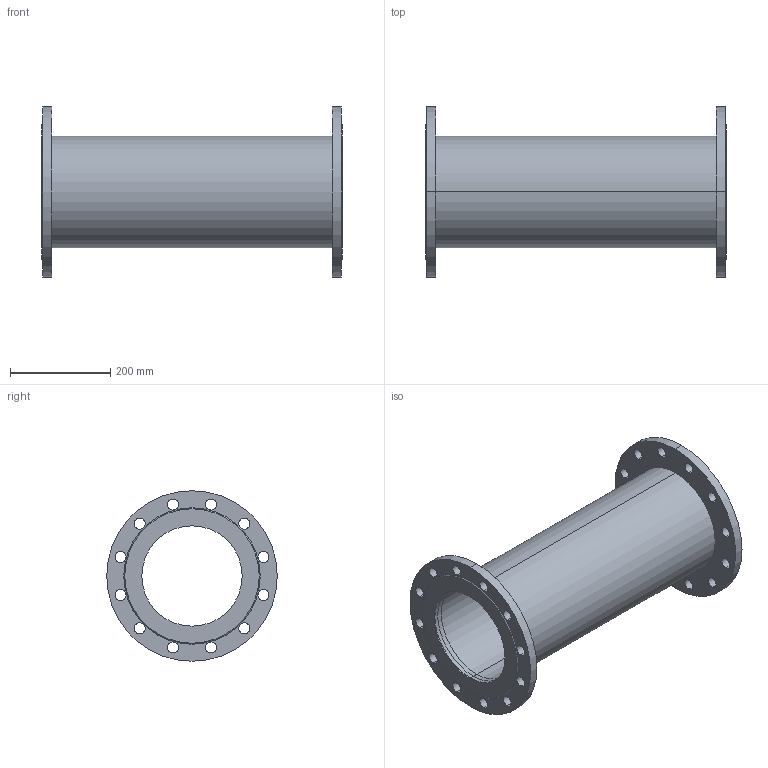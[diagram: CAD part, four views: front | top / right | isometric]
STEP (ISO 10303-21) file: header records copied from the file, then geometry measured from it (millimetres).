
FILE_DESCRIPTION(('STEP AP214'),'1');
FILE_NAME('S:/EK/USER/CAT6/3DHomepage_27-04-2012/VDI-Rohrsysteme_und_Stahlrohre/8500/8500_PN16_DN200_L600.STP','2013-01-21T14:42:00',(' '),(' '),'Spatial InterOp 3D',' ',' ');
FILE_SCHEMA(('automotive_design'));
Length unit declared in the file: millimetre
Products named in the file (5): 3D-Objekt
Bounding box: 600 x 340 x 340 mm (x, y, z)
Volume: 6305834.1 mm3; surface area: 1204390.3 mm2
Topology: 5 solids, 5 shells, 78 faces, 204 edges, 136 vertices
Faces by surface type: cylinder 64, plane 10, cone 4
Entity records: 3341 total; most frequent: DIRECTION 506, CARTESIAN_POINT 423, ORIENTED_EDGE 408, AXIS2_PLACEMENT_3D 219, EDGE_CURVE 204, EDGE_LOOP 136, VERTEX_POINT 136, CIRCLE 136
